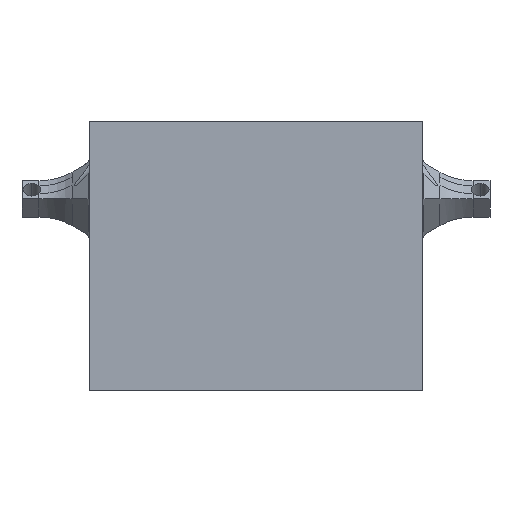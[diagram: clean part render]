
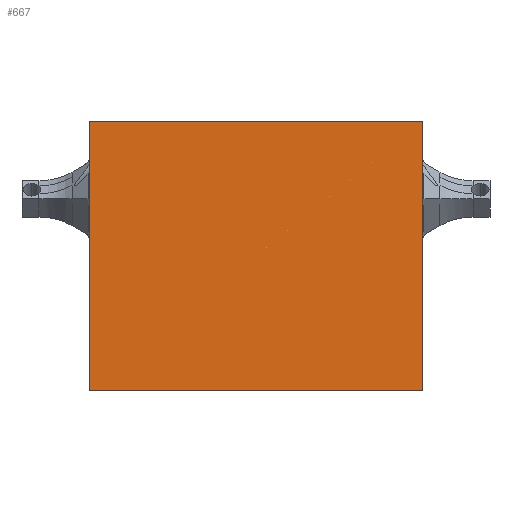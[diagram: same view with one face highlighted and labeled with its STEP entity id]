
A CAD part, front view. The second image highlights one B-rep face of the part: STEP entity #667.
In plain terms, the highlighted planar face has unit normal (0, -1, 0).
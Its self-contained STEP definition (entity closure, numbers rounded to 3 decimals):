
#161 = CARTESIAN_POINT ( 'NONE',  ( 82., -9., 66. ) ) ;
#190 = LINE ( 'NONE', #2876, #743 ) ;
#205 = LINE ( 'NONE', #2954, #3004 ) ;
#406 = VECTOR ( 'NONE', #773, 1000. ) ;
#537 = ORIENTED_EDGE ( 'NONE', *, *, #2063, .T. ) ;
#637 = ORIENTED_EDGE ( 'NONE', *, *, #1739, .T. ) ;
#667 = ADVANCED_FACE ( 'NONE', ( #2306 ), #3794, .F. ) ;
#743 = VECTOR ( 'NONE', #1381, 1000. ) ;
#773 = DIRECTION ( 'NONE',  ( -1., 0., 0. ) ) ;
#820 = VERTEX_POINT ( 'NONE', #2801 ) ;
#1009 = VECTOR ( 'NONE', #3259, 1000. ) ;
#1381 = DIRECTION ( 'NONE',  ( 0., 0., -1. ) ) ;
#1394 = CARTESIAN_POINT ( 'NONE',  ( 0., -9., 0. ) ) ;
#1568 = VERTEX_POINT ( 'NONE', #2738 ) ;
#1595 = ORIENTED_EDGE ( 'NONE', *, *, #2423, .T. ) ;
#1626 = VERTEX_POINT ( 'NONE', #1951 ) ;
#1739 = EDGE_CURVE ( 'NONE', #1626, #1568, #205, .T. ) ;
#1749 = EDGE_LOOP ( 'NONE', ( #637, #3789, #537, #1595 ) ) ;
#1772 = DIRECTION ( 'NONE',  ( 0., 0., 1. ) ) ;
#1951 = CARTESIAN_POINT ( 'NONE',  ( 82., -9., -2. ) ) ;
#2063 = EDGE_CURVE ( 'NONE', #3246, #820, #190, .T. ) ;
#2080 = CARTESIAN_POINT ( 'NONE',  ( 82., -9., -2. ) ) ;
#2306 = FACE_OUTER_BOUND ( 'NONE', #1749, .T. ) ;
#2323 = LINE ( 'NONE', #2080, #1009 ) ;
#2384 = DIRECTION ( 'NONE',  ( 0., 0., 1. ) ) ;
#2423 = EDGE_CURVE ( 'NONE', #820, #1626, #2323, .T. ) ;
#2652 = DIRECTION ( 'NONE',  ( 0., 1., 0. ) ) ;
#2738 = CARTESIAN_POINT ( 'NONE',  ( 82., -9., 66. ) ) ;
#2801 = CARTESIAN_POINT ( 'NONE',  ( -2., -9., -2. ) ) ;
#2826 = LINE ( 'NONE', #161, #406 ) ;
#2876 = CARTESIAN_POINT ( 'NONE',  ( -2., -9., 66. ) ) ;
#2954 = CARTESIAN_POINT ( 'NONE',  ( 82., -9., 66. ) ) ;
#3004 = VECTOR ( 'NONE', #1772, 1000. ) ;
#3204 = AXIS2_PLACEMENT_3D ( 'NONE', #1394, #2652, #2384 ) ;
#3246 = VERTEX_POINT ( 'NONE', #3437 ) ;
#3259 = DIRECTION ( 'NONE',  ( 1., 0., 0. ) ) ;
#3437 = CARTESIAN_POINT ( 'NONE',  ( -2., -9., 66. ) ) ;
#3742 = EDGE_CURVE ( 'NONE', #1568, #3246, #2826, .T. ) ;
#3789 = ORIENTED_EDGE ( 'NONE', *, *, #3742, .T. ) ;
#3794 = PLANE ( 'NONE',  #3204 ) ;
